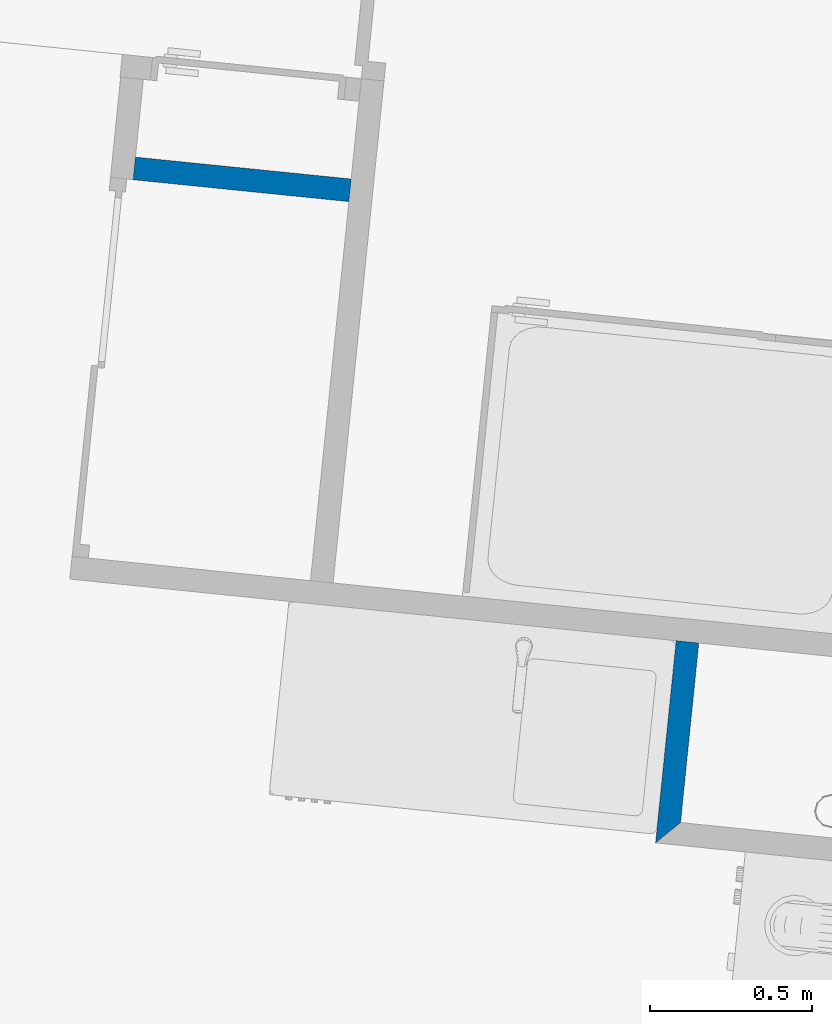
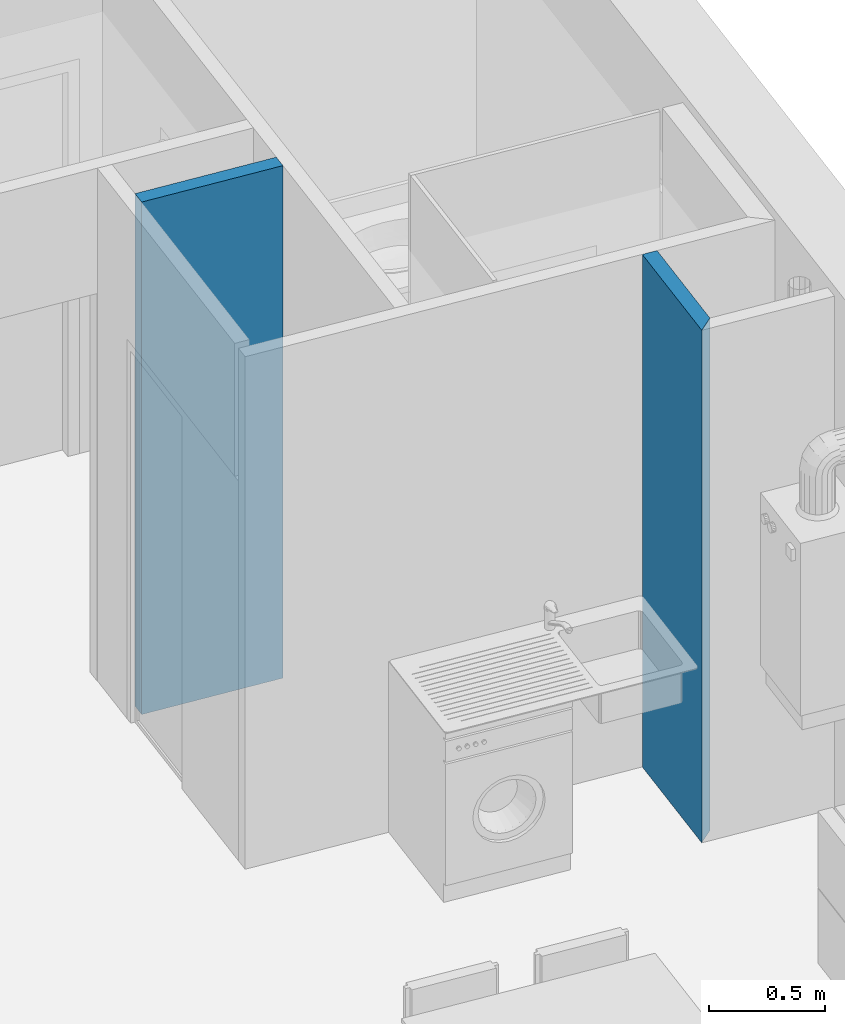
# One storey, part 56 of 164: 2 walls.
"""IFC2X3 building model written with IfcOpenShell, lengths in millimetres."""

from ifc_helpers import new_model, entity, si_unit, converted_unit, derived_unit, money_unit, direction, frame, origin_with_axes, place, context, subcontext, project, spatial, polyline, outline, extrude, material, layer, layer_set, layer_usage, type_object, element, save


model = new_model("IFC2X3")

# Units and contexts
model_context = context("Model", 3, precision=0.01, world=origin_with_axes(), true_north=direction((0.0, 1.0)))
body_context = subcontext(model_context, "Body", "Model", "MODEL_VIEW")
ifc_project = project(units=[si_unit("LENGTHUNIT", "METRE", prefix="MILLI"), si_unit("AREAUNIT", "SQUARE_METRE"), si_unit("VOLUMEUNIT", "CUBIC_METRE"), converted_unit("PLANEANGLEUNIT", "DEGREE", entity("IfcPlaneAngleMeasure", 0.0174532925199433), si_unit("PLANEANGLEUNIT", "RADIAN"), dimensions=[0, 0, 0, 0, 0, 0, 0]), money_unit("USD"), converted_unit("TIMEUNIT", "Year", entity("IfcTimeMeasure", 31557600.0), si_unit("TIMEUNIT", "SECOND"), dimensions=[0, 0, 1, 0, 0, 0, 0]), si_unit("MASSUNIT", "GRAM", prefix="KILO"), si_unit("THERMODYNAMICTEMPERATUREUNIT", "DEGREE_CELSIUS"), si_unit("LUMINOUSINTENSITYUNIT", "LUMEN"), si_unit("ENERGYUNIT", "JOULE", prefix="MEGA"), derived_unit("THERMALCONDUCTANCEUNIT", [(si_unit("POWERUNIT", "WATT"), 1), (si_unit("LENGTHUNIT", "METRE"), -1), (si_unit("THERMODYNAMICTEMPERATUREUNIT", "KELVIN"), -1)]), derived_unit("SPECIFICHEATCAPACITYUNIT", [(si_unit("ENERGYUNIT", "JOULE"), 1), (si_unit("MASSUNIT", "GRAM", prefix="KILO"), -1), (si_unit("THERMODYNAMICTEMPERATUREUNIT", "KELVIN"), -1)]), derived_unit("MASSDENSITYUNIT", [(si_unit("MASSUNIT", "GRAM", prefix="KILO"), 1), (si_unit("VOLUMEUNIT", "CUBIC_METRE"), -1)])], contexts=[model_context])

# Site, building, storey
site_placement = place(None, origin_with_axes())
site = spatial("IfcSite", under=ifc_project, at=site_placement, Name="Site", CompositionType="ELEMENT")
building_placement = place(site_placement, origin_with_axes())
building = spatial("IfcBuilding", under=site, at=building_placement, Name="Bâtiment", CompositionType="ELEMENT")
storey_placement = place(building_placement, frame((0.0, 0.0, 5750.0), z_axis=(0.0, 0.0, 1.0), x_axis=(1.0, 0.0, 0.0)))
storey = spatial("IfcBuildingStorey", under=building, at=storey_placement, Name="Etage1", CompositionType="ELEMENT", Elevation=5750.0)

# Walls
ifc_material_1 = material(Name="Hachure solide 268963992")
ifc_layer_1 = layer(ifc_material_1, 70.0, ventilated="UNKNOWN")
ifc_layer_set_1 = layer_set([ifc_layer_1], Name="Cloison 70 0826278243")
ifc_layer_usage_1 = layer_usage(ifc_layer_set_1, "AXIS2", "NEGATIVE", 70.0)
wall_type_1 = type_object("IfcWallType", Name="Cloison 70 0826278243 70", PredefinedType="NOTDEFINED")
wall_1_placement = place(storey_placement, frame((2238441.302085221, -613799.4058595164, 0.0), z_axis=(0.0, 0.0, 1.0), x_axis=(-0.1011032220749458, -0.994875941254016, 0.0)))
element("IfcWallStandardCase", 1, at=wall_1_placement, inside=storey, type_object=wall_type_1, material=ifc_layer_usage_1, Name="Mur-149", context=body_context, shape_type="SweptSolid", body=[
    extrude(outline(polyline([(70.00472104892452, 0.0), (696.5280741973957, 1.13686837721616e-10), (626.5280741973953, 70.00000000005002), (70.0041967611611, 69.99999999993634), (70.00472104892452, 0.0)])), origin_with_axes(), (0.0, 0.0, 1.0), 2700.0),
])
ifc_material_2 = material(Name="Hachure solide 269229667")
ifc_layer_2 = layer(ifc_material_2, 70.0, ventilated="UNKNOWN")
ifc_layer_set_2 = layer_set([ifc_layer_2], Name="Cloison 70 0836576958")
ifc_layer_usage_2 = layer_usage(ifc_layer_set_2, "AXIS2", "POSITIVE", 0.0)
wall_type_2 = type_object("IfcWallType", Name="Cloison 70 0836576958 70", PredefinedType="NOTDEFINED")
wall_2_placement = place(storey_placement, frame((2236690.374782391, -612440.896712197, 0.0), z_axis=(0.0, 0.0, 1.0), x_axis=(0.9949030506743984, -0.1008361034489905, 0.0)))
element("IfcWallStandardCase", 2, at=wall_2_placement, inside=storey, type_object=wall_type_2, material=ifc_layer_usage_2, Name="Mur-148", context=body_context, shape_type="SweptSolid", body=[
    extrude(outline(polyline([(70.00000000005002, 0.0), (738.6559923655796, 0.0), (738.6559923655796, 69.99999999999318), (70.00000000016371, 69.99999999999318), (70.00000000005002, 0.0)])), origin_with_axes(), (0.0, 0.0, 1.0), 2700.0),
])

save(model, "model.ifc")
